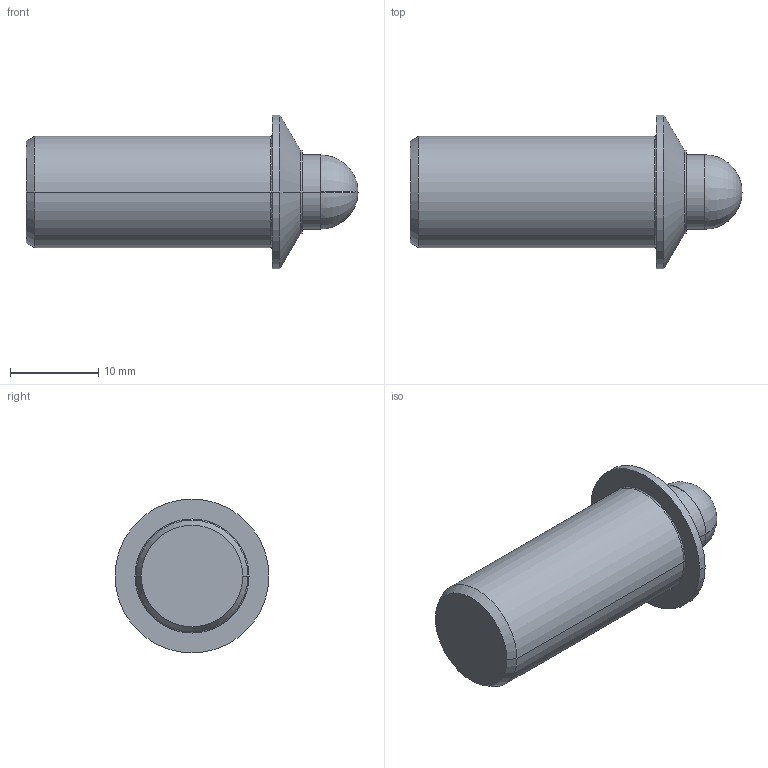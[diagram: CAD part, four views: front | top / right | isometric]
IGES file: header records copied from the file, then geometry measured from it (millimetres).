
Start section:  PTC IGES file: pfp60-part-3d.igs
Global section: file name: pfp60-part-3d.igs; native system: Pro/ENGINEER by Parametric Technology Corporation; preprocessor: 2002350; author: chant; organization: Unknown; date: 070201.160607; units: inch
Bounding box: 37.69 x 17.48 x 17.48 mm (x, y, z)
Surface area: 2573.4 mm2 (no closed solid volume)
Topology: 0 solids, 0 shells, 30 faces, 154 edges, 176 vertices
Faces by surface type: revolution 24, bspline 6
